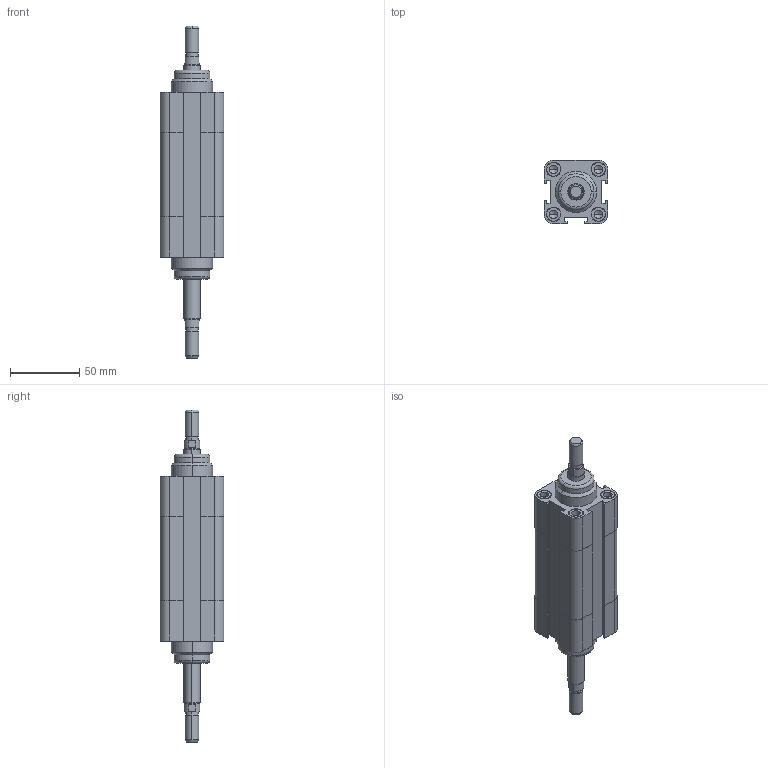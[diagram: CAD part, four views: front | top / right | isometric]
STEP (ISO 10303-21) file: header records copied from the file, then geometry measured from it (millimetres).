
FILE_DESCRIPTION((''),'2;1');
FILE_NAME('F:\Lib-3d\1380\CIL\1380_32_0025_02.stp','2004-01-07T15:54:31',('maffial1'),(''),'Autodesk Inventor 8','Autodesk Inventor 8','');
FILE_SCHEMA(('AUTOMOTIVE_DESIGN { 1 0 10303 214 1 1 1 1 }'));
Length unit declared in the file: millimetre
Products named in the file (3): 1380_32_0025_02; CPP04_32_25; CPP03_32_25
Assembly tree (2 placements, depth 2):
  1380_32_0025_02
    CPP04_32_25
    CPP03_32_25
Bounding box: 46 x 46 x 240 mm (x, y, z)
Volume: 244885 mm3; surface area: 52639.9 mm2
Topology: 2 solids, 2 shells, 236 faces, 564 edges, 356 vertices
Faces by surface type: plane 80, cylinder 66, bspline 62, cone 24, torus 4
Entity records: 7513 total; most frequent: CARTESIAN_POINT 2031, DIRECTION 1154, ORIENTED_EDGE 1096, EDGE_CURVE 548, AXIS2_PLACEMENT_3D 427, VERTEX_POINT 356, VECTOR 300, LINE 300
